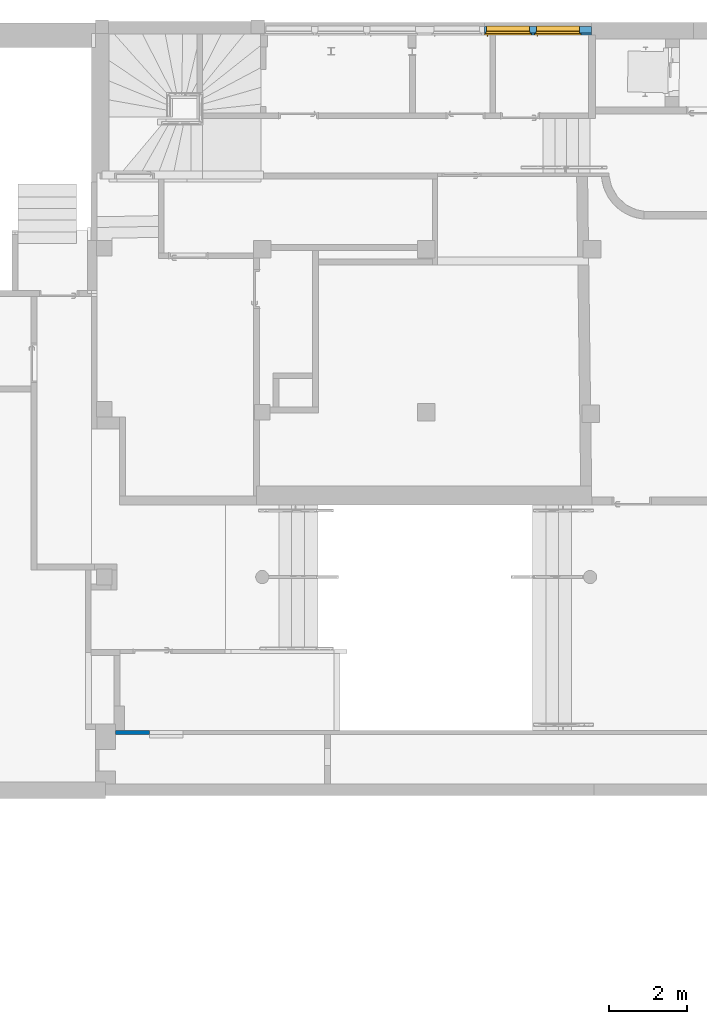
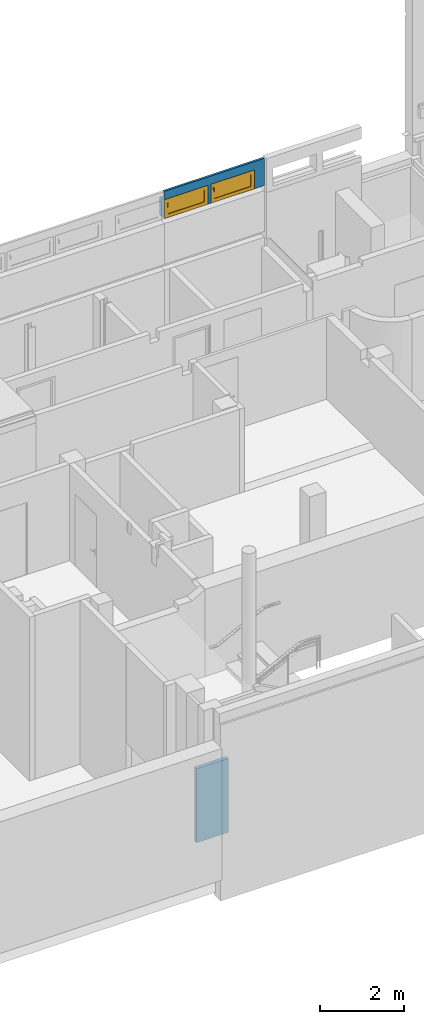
"""IFC4 building model written with IfcOpenShell, lengths in metres."""

from ifc_helpers import new_model, entity, si_unit, converted_unit, derived_unit, direction, frame, origin, place, context, subcontext, project, spatial, polygons, source, transform, mapped, material, material_list, layer, layer_set, constituent, constituent_set, type_object, type_shapes, element, fill, save


model = new_model("IFC4")

# Units and contexts
model_context = context("Model", 3, precision=1e-05, world=origin(), true_north=direction((6.12303176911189e-17, 1.0)))
body_context = subcontext(model_context, "Body", "Model", "MODEL_VIEW")
ifc_project = project(units=[si_unit("LENGTHUNIT", "METRE"), si_unit("AREAUNIT", "SQUARE_METRE"), si_unit("VOLUMEUNIT", "CUBIC_METRE"), converted_unit("PLANEANGLEUNIT", "DEGREE", entity("IfcRatioMeasure", 0.0174532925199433), si_unit("PLANEANGLEUNIT", "RADIAN"), dimensions=[0, 0, 0, 0, 0, 0, 0]), si_unit("MASSUNIT", "GRAM", prefix="KILO"), derived_unit("MASSDENSITYUNIT", [(si_unit("MASSUNIT", "GRAM", prefix="KILO"), 1), (si_unit("LENGTHUNIT", "METRE"), -3)]), derived_unit("MOMENTOFINERTIAUNIT", [(si_unit("LENGTHUNIT", "METRE"), 4)]), si_unit("TIMEUNIT", "SECOND"), si_unit("FREQUENCYUNIT", "HERTZ"), si_unit("THERMODYNAMICTEMPERATUREUNIT", "DEGREE_CELSIUS"), derived_unit("THERMALTRANSMITTANCEUNIT", [(si_unit("MASSUNIT", "GRAM", prefix="KILO"), 1), (si_unit("THERMODYNAMICTEMPERATUREUNIT", "KELVIN"), -1), (si_unit("TIMEUNIT", "SECOND"), -3)]), derived_unit("VOLUMETRICFLOWRATEUNIT", [(si_unit("LENGTHUNIT", "METRE"), 3), (si_unit("TIMEUNIT", "SECOND"), -1)]), si_unit("ELECTRICCURRENTUNIT", "AMPERE"), si_unit("ELECTRICVOLTAGEUNIT", "VOLT"), si_unit("POWERUNIT", "WATT"), si_unit("FORCEUNIT", "NEWTON", prefix="KILO"), si_unit("ILLUMINANCEUNIT", "LUX"), si_unit("LUMINOUSFLUXUNIT", "LUMEN"), si_unit("LUMINOUSINTENSITYUNIT", "CANDELA"), derived_unit("USERDEFINED", [(si_unit("MASSUNIT", "GRAM", prefix="KILO"), -1), (si_unit("LENGTHUNIT", "METRE"), -2), (si_unit("TIMEUNIT", "SECOND"), 3), (si_unit("LUMINOUSFLUXUNIT", "LUMEN"), 1)]), derived_unit("LINEARVELOCITYUNIT", [(si_unit("LENGTHUNIT", "METRE"), 1), (si_unit("TIMEUNIT", "SECOND"), -1)]), si_unit("PRESSUREUNIT", "PASCAL"), derived_unit("USERDEFINED", [(si_unit("LENGTHUNIT", "METRE"), -2), (si_unit("MASSUNIT", "GRAM", prefix="KILO"), 1), (si_unit("TIMEUNIT", "SECOND"), -2)]), derived_unit("LINEARFORCEUNIT", [(si_unit("MASSUNIT", "GRAM", prefix="KILO"), 1), (si_unit("LENGTHUNIT", "METRE"), 1), (si_unit("TIMEUNIT", "SECOND"), -2), (si_unit("LENGTHUNIT", "METRE"), -1)]), derived_unit("PLANARFORCEUNIT", [(si_unit("MASSUNIT", "GRAM", prefix="KILO"), 1), (si_unit("LENGTHUNIT", "METRE"), 1), (si_unit("TIMEUNIT", "SECOND"), -2), (si_unit("LENGTHUNIT", "METRE"), -2)])], contexts=[model_context])

# Site, building, storey
site_placement = place(None, origin())
site = spatial("IfcSite", under=ifc_project, at=site_placement, Name="Default", CompositionType="ELEMENT")
building_placement = place(site_placement, origin())
building = spatial("IfcBuilding", under=site, at=building_placement, Name="HOTEL CONSULAIRE BOULOGNE SUR MER", CompositionType="ELEMENT")
storey_1_placement = place(building_placement, frame((0.0, 0.0, -5.02343668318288)))
storey_1 = spatial("IfcBuildingStorey", under=building, at=storey_1_placement, Name="SS3", CompositionType="ELEMENT", Elevation=-5.02343668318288)

# Wall
ifc_material_1 = material(Name="Mur par défaut", Category="Divers")
ifc_layer_1 = layer(ifc_material_1, 0.1, Name="Mur par défaut", Category="Divers")
ifc_layer_set_1 = layer_set([ifc_layer_1], Name="Mur de base:Générique - Int. 100 mm")
wall_type_1 = type_object("IfcWallType", Name="Mur de base:Générique - Int. 100 mm", PredefinedType="NOTDEFINED", material=ifc_layer_set_1)
wall_1_placement = place(storey_1_placement, frame((-4.99468938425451, -27.996273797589, 0.0)))
element("IfcWall", 1, at=wall_1_placement, inside=storey_1, type_object=wall_type_1, material=ifc_layer_set_1, Name="Mur de base:Générique - Int. 100 mm", ObjectType="Mur de base:Générique - Int. 100 mm", PredefinedType="NOTDEFINED", context=body_context, shape_type="Tessellation", body=[
    polygons([(2.59627302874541e-16, -0.0499999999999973, 0.0), (0.880410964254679, -0.0499999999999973, 0.0), (0.880410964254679, -0.0499999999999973, 0.517), (0.880410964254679, -0.0499999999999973, 2.14999999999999), (2.59627302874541e-16, -0.0499999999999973, 2.14999999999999), (0.880410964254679, 0.0500000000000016, 0.0), (0.238410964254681, 0.0500000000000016, 0.0), (-6.17615550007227e-17, 0.0500000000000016, 0.0), (-6.17615550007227e-17, 0.0500000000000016, 2.14999999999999), (0.238410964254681, 0.0500000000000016, 2.14999999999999), (0.880410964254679, 0.0500000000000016, 2.14999999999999), (0.880410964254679, 0.0500000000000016, 0.517)], [[[5, 1, 2, 3, 4]], [[12, 6, 7, 8, 9, 10, 11]], [[2, 1, 8, 7, 6]], [[3, 2, 6, 12, 11, 4]], [[9, 8, 1, 5]], [[10, 9, 5, 4, 11]]], closed=True),
])

# Wall, openings
ifc_layer_2 = layer(ifc_material_1, 0.22, Name="Mur par défaut", Category="Divers")
ifc_layer_set_2 = layer_set([ifc_layer_2], Name="Mur de base:Générique - Ext. 220 mm")
wall_type_2 = type_object("IfcWallType", Name="Mur de base:Générique - Ext. 220 mm", PredefinedType="NOTDEFINED", material=ifc_layer_set_2)
wall_2_placement = place(storey_1_placement, frame((4.4625764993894, -10.02432416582, 3.9387775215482)))
wall_2 = element("IfcWall", 2, at=wall_2_placement, inside=storey_1, type_object=wall_type_2, material=ifc_layer_set_2, Name="Mur de base:Générique - Ext. 220 mm", ObjectType="Mur de base:Générique - Ext. 220 mm", PredefinedType="NOTDEFINED", context=body_context, shape_type="Tessellation", body=[
    polygons([(2.74640376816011, -0.109999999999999, 0.814659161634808), (6.06782421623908e-16, -0.109999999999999, 0.814659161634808), (6.06782421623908e-16, -0.109999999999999, 0.0231229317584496), (2.74640376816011, -0.109999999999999, 0.0231229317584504), (1.20395303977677, -0.109999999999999, 0.0244593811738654), (0.00395303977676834, -0.109999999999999, 0.0244593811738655), (0.00395303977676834, -0.109999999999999, 0.574459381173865), (1.20395303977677, -0.109999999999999, 0.574459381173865), (2.48095303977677, -0.109999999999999, 0.0244593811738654), (1.28095303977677, -0.109999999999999, 0.0244593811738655), (1.28095303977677, -0.109999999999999, 0.574459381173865), (2.48095303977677, -0.109999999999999, 0.574459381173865), (-2.64406918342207e-16, 0.110000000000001, 0.524659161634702), (2.74640376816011, 0.110000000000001, 0.524659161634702), (2.74640376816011, 0.110000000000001, 1.08286712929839e-15), (2.43095303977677, 0.110000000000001, 9.47508738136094e-16), (2.43095303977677, 0.110000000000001, 0.524459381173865), (1.33095303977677, 0.110000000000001, 0.524459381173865), (1.33095303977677, 0.110000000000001, 5.41433564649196e-16), (1.15395303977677, 0.110000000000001, 4.06075173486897e-16), (1.15395303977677, 0.110000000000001, 0.524459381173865), (0.0539530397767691, 0.110000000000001, 0.524459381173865), (0.0539530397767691, 0.110000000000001, 1.35358391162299e-16), (-2.64406918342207e-16, 0.110000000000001, 0.0), (2.74640376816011, -0.0503081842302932, 0.814659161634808), (2.74640376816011, -0.0503081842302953, 0.524659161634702), (3.70405723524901e-16, -0.0503081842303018, 0.814659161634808), (3.70405723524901e-16, -0.0503081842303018, 0.524659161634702), (2.44095303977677, -0.0503081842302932, 0.524659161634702), (2.44095303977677, -0.0503081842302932, 0.534459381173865), (1.32095303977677, -0.0503081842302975, 0.534459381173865), (1.32095303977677, -0.0503081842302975, 0.524659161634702), (1.16395303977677, -0.0503081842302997, 0.524659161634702), (1.16395303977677, -0.0503081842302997, 0.534459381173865), (0.0439530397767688, -0.0503081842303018, 0.534459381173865), (0.0439530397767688, -0.0503081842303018, 0.524659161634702), (0.0439530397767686, -0.00999999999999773, 0.524659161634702), (1.16395303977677, -0.00999999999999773, 0.524659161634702), (1.32095303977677, -0.00999999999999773, 0.524659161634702), (2.44095303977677, -0.00999999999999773, 0.524659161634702), (0.0539530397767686, -0.0300000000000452, 0.0147145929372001), (1.15395303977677, -0.0300000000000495, 0.0147145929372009), (1.33095303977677, -0.0300000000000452, 0.0147145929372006), (2.43095303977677, -0.0300000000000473, 0.0147145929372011), (0.0539530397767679, -0.00999999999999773, 0.524459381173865), (0.0539530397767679, -0.00999999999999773, 0.0244593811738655), (0.053953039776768, -0.0300000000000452, 0.0244593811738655), (1.15395303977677, -0.0300000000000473, 0.0244593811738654), (1.15395303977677, -0.00999999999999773, 0.0244593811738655), (1.15395303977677, -0.00999999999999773, 0.524459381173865), (0.0439530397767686, -0.00999999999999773, 0.0244593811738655), (0.0439530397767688, -0.0600000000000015, 0.0244593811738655), (0.00395303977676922, -0.0600000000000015, 0.0244593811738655), (1.20395303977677, -0.0600000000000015, 0.0244593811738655), (1.16395303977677, -0.0600000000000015, 0.0244593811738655), (1.16395303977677, -0.00999999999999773, 0.0244593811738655), (0.00395303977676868, -0.0600000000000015, 0.574459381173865), (0.0439530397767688, -0.0600000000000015, 0.534459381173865), (1.16395303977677, -0.0600000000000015, 0.534459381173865), (1.20395303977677, -0.0600000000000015, 0.574459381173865), (1.33095303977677, -0.00999999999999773, 0.524459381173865), (1.33095303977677, -0.00999999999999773, 0.0244593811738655), (1.33095303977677, -0.0300000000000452, 0.0244593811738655), (2.43095303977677, -0.0300000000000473, 0.0244593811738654), (2.43095303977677, -0.00999999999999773, 0.0244593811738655), (2.43095303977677, -0.00999999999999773, 0.524459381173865), (1.32095303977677, -0.00999999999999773, 0.0244593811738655), (1.32095303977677, -0.0600000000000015, 0.0244593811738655), (1.28095303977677, -0.0600000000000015, 0.0244593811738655), (2.48095303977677, -0.0600000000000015, 0.0244593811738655), (2.44095303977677, -0.0600000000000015, 0.0244593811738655), (2.44095303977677, -0.00999999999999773, 0.0244593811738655), (1.28095303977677, -0.0600000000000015, 0.574459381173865), (1.32095303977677, -0.0600000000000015, 0.534459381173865), (2.44095303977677, -0.0600000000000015, 0.534459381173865), (2.48095303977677, -0.0600000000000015, 0.574459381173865)], [[[3, 4, 1, 2], [6, 7, 8, 5], [10, 11, 12, 9]], [[58, 59, 55, 54, 60, 57, 53, 52]], [[45, 50, 49, 56, 38, 37, 51, 46]], [[74, 75, 71, 70, 76, 73, 69, 68]], [[61, 66, 65, 72, 40, 39, 67, 62]], [[17, 18, 19, 20, 21, 22, 23, 24, 13, 14, 15, 16]], [[30, 31, 32, 33, 34, 35, 36, 28, 27, 25, 26, 29]], [[48, 42, 41, 47]], [[64, 44, 43, 63]], [[25, 1, 4, 15, 14, 26]], [[46, 47, 41, 23, 22, 45]], [[7, 6, 53, 57]], [[36, 35, 58, 52, 51, 37]], [[62, 63, 43, 19, 18, 61]], [[11, 10, 69, 73]], [[32, 31, 74, 68, 67, 39]], [[2, 1, 25, 27]], [[29, 26, 14, 13, 28, 36, 37, 38, 33, 32, 39, 40]], [[47, 46, 51, 52, 53, 6, 5, 54, 55, 56, 49, 48]], [[63, 62, 67, 68, 69, 10, 9, 70, 71, 72, 65, 64]], [[3, 2, 27, 28, 13, 24]], [[42, 48, 49, 50, 21, 20]], [[5, 8, 60, 54]], [[59, 34, 33, 38, 56, 55]], [[44, 64, 65, 66, 17, 16]], [[9, 12, 76, 70]], [[75, 30, 29, 40, 72, 71]], [[41, 42, 20, 19, 43, 44, 16, 15, 4, 3, 24, 23]], [[50, 45, 22, 21]], [[60, 8, 7, 57]], [[59, 58, 35, 34]], [[66, 61, 18, 17]], [[76, 12, 11, 73]], [[30, 75, 74, 31]]], closed=True),
])
opening_1_placement = place(wall_2_placement, frame((0.00395303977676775, -0.500000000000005, -0.0462458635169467)))
opening_1 = element("IfcOpeningElement", 3, at=opening_1_placement, cuts=wall_2, Name="Mur de base:Générique - Ext. 220 mm", ObjectType="Opening", PredefinedType="OPENING", context=body_context, shape_type="Tessellation", body=[
    polygons([(0.0499999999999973, 6.49720277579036e-15, 0.570705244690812), (0.0499999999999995, 0.390000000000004, 0.570705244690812), (0.0499999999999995, 0.390000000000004, 0.0707052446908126), (0.0499999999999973, 6.49720277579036e-15, 0.0707052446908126), (1.15, 1.0, 0.570705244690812), (1.15, 0.490000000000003, 0.570705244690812), (1.15, 0.490000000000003, 0.0707052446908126), (1.15, 0.469999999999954, 0.0707052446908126), (1.15, 0.469999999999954, 0.0557052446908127), (1.15, 1.0, 0.0), (1.15, 0.0, 0.570705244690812), (1.15, 0.39, 0.570705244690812), (0.05, 0.46999999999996, 0.0707052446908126), (0.05, 0.490000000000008, 0.0707052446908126), (0.05, 0.490000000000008, 0.570705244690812), (0.0500000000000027, 1.00000000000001, 0.570705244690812), (0.0500000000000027, 1.00000000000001, 0.0), (0.05, 0.46999999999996, 0.0557052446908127), (1.15, 0.0, 0.0707052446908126), (1.15, 0.39, 0.0707052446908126), (1.08286712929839e-15, 0.390000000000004, 0.0707052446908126), (1.08286712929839e-15, 0.440000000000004, 0.0707052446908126), (0.0400000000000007, 0.440000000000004, 0.0707052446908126), (0.0400000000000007, 0.490000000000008, 0.0707052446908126), (1.16, 0.490000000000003, 0.0707052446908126), (1.16, 0.44, 0.0707052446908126), (1.2, 0.44, 0.0707052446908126), (1.2, 0.39, 0.0707052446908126), (5.41433564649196e-16, 0.390000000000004, 0.620705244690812), (5.41433564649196e-16, 0.440000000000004, 0.620705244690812), (1.2, 0.44, 0.620705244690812), (1.16, 0.44, 0.580705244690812), (0.0400000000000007, 0.440000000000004, 0.580705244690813), (0.0400000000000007, 0.490000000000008, 0.580705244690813), (1.16, 0.490000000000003, 0.580705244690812), (1.2, 0.39, 0.620705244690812)], [[[2, 3, 4, 1]], [[16, 17, 18, 13, 14, 15]], [[22, 21, 29, 30]], [[24, 23, 33, 34]], [[7, 8, 9, 10, 5, 6]], [[11, 19, 20, 12]], [[31, 36, 28, 27]], [[35, 32, 26, 25]], [[2, 1, 11, 12]], [[16, 15, 6, 5]], [[30, 29, 36, 31]], [[34, 33, 32, 35]], [[24, 14, 13, 8, 7, 25, 26, 27, 28, 20, 19, 4, 3, 21, 22, 23]], [[1, 4, 19, 11]], [[13, 18, 9, 8]], [[20, 28, 36, 29, 21, 3, 2, 12]], [[17, 16, 5, 10]], [[23, 22, 30, 31, 27, 26, 32, 33]], [[14, 24, 34, 35, 25, 7, 6, 15]], [[18, 17, 10, 9]]], closed=True),
])
opening_2_placement = place(wall_2_placement, frame((1.28095303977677, -0.500000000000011, -0.0462458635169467)))
opening_2 = element("IfcOpeningElement", 4, at=opening_2_placement, cuts=wall_2, Name="Mur de base:Générique - Ext. 220 mm", ObjectType="Opening", PredefinedType="OPENING", context=body_context, shape_type="Tessellation", body=[
    polygons([(1.15, 0.0, 0.570705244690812), (1.15, 0.39, 0.570705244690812), (0.0499999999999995, 0.390000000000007, 0.570705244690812), (0.0499999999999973, 6.49720277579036e-15, 0.570705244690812), (0.0499999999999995, 0.390000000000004, 0.0707052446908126), (0.0499999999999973, 6.49720277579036e-15, 0.0707052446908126), (1.15, 1.0, 0.570705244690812), (1.15, 0.490000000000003, 0.570705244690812), (1.15, 0.490000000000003, 0.0707052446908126), (1.15, 0.469999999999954, 0.0707052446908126), (1.15, 0.469999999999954, 0.0557052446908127), (1.15, 1.0, 0.0), (0.0499999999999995, 0.46999999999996, 0.0707052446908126), (0.0500000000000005, 0.490000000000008, 0.0707052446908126), (0.0500000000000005, 0.490000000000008, 0.570705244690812), (0.0500000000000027, 1.00000000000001, 0.570705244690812), (0.0500000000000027, 1.00000000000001, 0.0), (0.0499999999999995, 0.46999999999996, 0.0557052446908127), (1.15, 0.0, 0.0707052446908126), (1.15, 0.39, 0.0707052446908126), (1.08286712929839e-15, 0.390000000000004, 0.0707052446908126), (1.08286712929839e-15, 0.440000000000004, 0.0707052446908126), (0.0400000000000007, 0.440000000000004, 0.0707052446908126), (0.0400000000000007, 0.490000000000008, 0.0707052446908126), (1.16, 0.490000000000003, 0.0707052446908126), (1.16, 0.44, 0.0707052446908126), (1.2, 0.44, 0.0707052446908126), (1.2, 0.39, 0.0707052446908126), (1.08286712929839e-15, 0.390000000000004, 0.620705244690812), (1.08286712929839e-15, 0.440000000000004, 0.620705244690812), (1.2, 0.44, 0.620705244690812), (1.16, 0.44, 0.580705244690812), (0.0400000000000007, 0.440000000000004, 0.580705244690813), (0.0400000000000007, 0.490000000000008, 0.580705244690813), (1.16, 0.490000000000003, 0.580705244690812), (1.2, 0.39, 0.620705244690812)], [[[3, 4, 1, 2]], [[16, 15, 8, 7]], [[30, 29, 36, 31]], [[34, 33, 32, 35]], [[3, 5, 6, 4]], [[16, 17, 18, 13, 14, 15]], [[22, 21, 29, 30]], [[24, 23, 33, 34]], [[9, 10, 11, 12, 7, 8]], [[1, 19, 20, 2]], [[31, 36, 28, 27]], [[35, 32, 26, 25]], [[24, 14, 13, 10, 9, 25, 26, 27, 28, 20, 19, 6, 5, 21, 22, 23]], [[4, 6, 19, 1]], [[13, 18, 11, 10]], [[20, 28, 36, 29, 21, 5, 3, 2]], [[17, 16, 7, 12]], [[23, 22, 30, 31, 27, 26, 32, 33]], [[14, 24, 34, 35, 25, 9, 8, 15]], [[18, 17, 12, 11]]], closed=True),
])

# Storey
storey_2_placement = place(building_placement, frame((0.0, 0.0, -1.40419978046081)))
storey_2 = spatial("IfcBuildingStorey", under=building, at=storey_2_placement, Name="Demi-niveau", CompositionType="ELEMENT", Elevation=-1.40419978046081)

# Window
ifc_material_2 = material(Name="PVC - Blanc", Category="Plastique")
ifc_constituent_1 = constituent(ifc_material_2, Name="PVC - Blanc", Category="Matériaux")
ifc_material_3 = material(Name="Fenêtre - Appui", Category="Métal")
ifc_constituent_2 = constituent(ifc_material_3, Name="Fenêtre - Appui", Category="Matériaux")
ifc_constituent_set_1 = constituent_set(constituents=[ifc_constituent_1, ifc_constituent_2], Name="MaterialConstituentSet")
ifc_material_list = material_list([ifc_material_2, ifc_material_2, ifc_material_3, ifc_material_2, ifc_material_2])
window_type = type_object("IfcWindowType", Name="1 Vantail - Droit:1.10x0.5 2", PartitioningType="NOTDEFINED", PredefinedType="WINDOW", material=ifc_material_list)
shared_shape = source(origin(), body_context, "Body", "Tessellation", [
    polygons([(0.0806460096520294, -0.61600000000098, 0.492739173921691), (0.0820339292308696, -0.61600000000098, 0.491351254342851), (0.0820339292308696, -0.61600000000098, 0.480037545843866), (0.0806676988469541, -0.61600000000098, 0.478671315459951), (0.0693323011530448, -0.61600000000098, 0.478671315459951), (0.0679660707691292, -0.61600000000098, 0.480037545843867), (0.0679660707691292, -0.61600000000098, 0.491351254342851), (0.0693539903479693, -0.61600000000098, 0.492739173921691), (0.0806460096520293, -0.628913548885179, 0.492739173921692), (0.0820339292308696, -0.62833865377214, 0.491351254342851), (0.0820339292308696, -0.64164600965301, 0.478043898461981), (0.0820339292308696, -0.64164600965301, 0.390705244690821), (0.0820339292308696, -0.630332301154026, 0.390705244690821), (0.0820339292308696, -0.630332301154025, 0.473357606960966), (0.0820339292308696, -0.623652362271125, 0.480037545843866), (0.0806676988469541, -0.623086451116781, 0.478671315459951), (0.0693323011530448, -0.623086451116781, 0.478671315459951), (0.0679660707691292, -0.623652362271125, 0.480037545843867), (0.0679660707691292, -0.630332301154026, 0.473357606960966), (0.0679660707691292, -0.630332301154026, 0.390705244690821), (0.0679660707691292, -0.64164600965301, 0.390705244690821), (0.0679660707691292, -0.64164600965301, 0.478043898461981), (0.0679660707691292, -0.62833865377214, 0.491351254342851), (0.0693539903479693, -0.628913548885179, 0.492739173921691), (0.0806460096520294, -0.64303392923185, 0.47861879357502), (0.0806676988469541, -0.62896607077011, 0.472791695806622), (0.0693323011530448, -0.62896607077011, 0.472791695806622), (0.0693539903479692, -0.64303392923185, 0.47861879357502), (0.0806460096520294, -0.643033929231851, 0.390705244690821), (0.0693539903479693, -0.643033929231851, 0.390705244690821), (0.0693323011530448, -0.62896607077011, 0.390705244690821), (0.0806676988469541, -0.62896607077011, 0.390705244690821)], [[[5, 6, 7, 8, 1, 2, 3, 4]], [[27, 26, 32, 31]], [[2, 1, 9, 10]], [[2, 10, 11, 12, 13, 14, 15, 3]], [[4, 3, 15, 16]], [[5, 4, 16, 17]], [[32, 13, 12, 29, 30, 21, 20, 31]], [[6, 5, 17, 18]], [[6, 18, 19, 20, 21, 22, 23, 7]], [[8, 7, 23, 24]], [[1, 8, 24, 9]], [[10, 9, 25, 11]], [[16, 15, 14, 26]], [[17, 16, 26, 27]], [[18, 17, 27, 19]], [[24, 23, 22, 28]], [[9, 24, 28, 25]], [[11, 25, 29, 12]], [[26, 14, 13, 32]], [[19, 27, 31, 20]], [[28, 22, 21, 30]], [[25, 28, 30, 29]]], closed=True),
    polygons([(0.0820000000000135, -0.616000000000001, 0.510705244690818), (0.0679999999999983, -0.616000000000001, 0.510705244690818), (0.0629999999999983, -0.616000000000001, 0.505705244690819), (0.0629999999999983, -0.616000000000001, 0.435705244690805), (0.0679999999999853, -0.616000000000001, 0.430705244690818), (0.0820000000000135, -0.616000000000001, 0.430705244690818), (0.0869999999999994, -0.616000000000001, 0.435705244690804), (0.0869999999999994, -0.616000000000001, 0.505705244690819), (0.0820000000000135, -0.610000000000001, 0.510705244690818), (0.0869999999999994, -0.610000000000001, 0.505705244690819), (0.0869999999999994, -0.610000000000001, 0.435705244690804), (0.0820000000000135, -0.610000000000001, 0.430705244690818), (0.0679999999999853, -0.610000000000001, 0.430705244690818), (0.0629999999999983, -0.610000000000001, 0.435705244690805), (0.0629999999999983, -0.610000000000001, 0.505705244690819), (0.0679999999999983, -0.610000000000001, 0.510705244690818)], [[[4, 5, 6, 7, 8, 1, 2, 3]], [[10, 11, 12, 13, 14, 15, 16, 9]], [[2, 1, 9, 16]], [[3, 2, 16, 15]], [[4, 3, 15, 14]], [[5, 4, 14, 13]], [[6, 5, 13, 12]], [[7, 6, 12, 11]], [[8, 7, 11, 10]], [[1, 8, 10, 9]]], closed=True),
    polygons([(1.15, -0.374999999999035, 0.0446692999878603), (1.15, -0.524999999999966, 0.06043493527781), (1.15, -0.524999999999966, 0.0707052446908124), (1.15, -0.529999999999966, 0.0707052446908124), (1.15, -0.529999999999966, 0.0557052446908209), (1.15, -0.379999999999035, 0.0399396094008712), (1.15, -0.379999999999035, 0.029639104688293), (1.15, -0.374999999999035, 0.0291135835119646), (0.0499999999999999, -0.374999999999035, 0.0446692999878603), (0.0499999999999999, -0.374999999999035, 0.0291135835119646), (0.0499999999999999, -0.379999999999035, 0.029639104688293), (0.0499999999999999, -0.379999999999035, 0.0399396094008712), (0.0499999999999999, -0.529999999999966, 0.0557052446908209), (0.0499999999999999, -0.529999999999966, 0.0707052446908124), (0.0499999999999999, -0.524999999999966, 0.0707052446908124), (0.0499999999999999, -0.524999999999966, 0.06043493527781)], [[[1, 2, 3, 4, 5, 6, 7, 8]], [[14, 15, 16, 9, 10, 11, 12, 13]], [[2, 1, 9, 16]], [[3, 2, 16, 15]], [[1, 8, 10, 9]], [[4, 3, 15, 14]], [[5, 4, 14, 13]], [[7, 6, 12, 11]], [[6, 5, 13, 12]], [[8, 7, 11, 10]]], closed=True),
    polygons([(0.0500000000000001, -0.374999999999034, 0.0446692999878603), (0.0499999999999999, -0.524999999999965, 0.06043493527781), (0.0499999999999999, -0.524999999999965, 0.0654624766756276), (0.0500000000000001, -0.378581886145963, 0.0500733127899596), (0.0500000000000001, -0.376027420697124, 0.0487717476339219), (0.0500000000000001, -0.374999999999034, 0.0460952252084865), (0.0550000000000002, -0.374999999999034, 0.0446692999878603), (0.0550000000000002, -0.374999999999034, 0.0460952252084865), (0.0550000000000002, -0.376027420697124, 0.0487717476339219), (0.0550000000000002, -0.378581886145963, 0.0500733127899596), (0.0549999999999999, -0.524999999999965, 0.0654624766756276), (0.0549999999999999, -0.524999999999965, 0.06043493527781)], [[[6, 1, 2, 3, 4, 5]], [[11, 12, 7, 8, 9, 10]], [[2, 1, 7, 12]], [[3, 2, 12, 11]], [[4, 3, 11, 10]], [[4, 10, 9, 5]], [[9, 8, 6, 5]], [[1, 6, 8, 7]]], closed=True),
    polygons([(1.145, -0.374999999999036, 0.0446692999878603), (1.145, -0.524999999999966, 0.06043493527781), (1.145, -0.524999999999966, 0.0654624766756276), (1.145, -0.378581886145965, 0.0500733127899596), (1.145, -0.376027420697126, 0.0487717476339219), (1.145, -0.374999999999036, 0.0460952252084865), (1.15, -0.374999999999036, 0.0446692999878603), (1.15, -0.374999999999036, 0.0460952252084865), (1.15, -0.376027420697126, 0.0487717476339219), (1.15, -0.378581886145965, 0.0500733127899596), (1.15, -0.524999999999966, 0.0654624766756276), (1.15, -0.524999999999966, 0.06043493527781)], [[[6, 1, 2, 3, 4, 5]], [[11, 12, 7, 8, 9, 10]], [[2, 1, 7, 12]], [[3, 2, 12, 11]], [[4, 3, 11, 10]], [[4, 10, 9, 5]], [[9, 8, 6, 5]], [[1, 6, 8, 7]]], closed=True),
    polygons([(0.0999999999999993, -0.584000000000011, 0.170705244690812), (0.0999999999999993, -0.584000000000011, 0.520705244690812), (1.1, -0.584000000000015, 0.520705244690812), (1.1, -0.584000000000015, 0.170705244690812), (0.0999999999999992, -0.596000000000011, 0.170705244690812), (1.1, -0.596000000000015, 0.170705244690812), (1.1, -0.596000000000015, 0.520705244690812), (0.0999999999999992, -0.596000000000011, 0.520705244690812)], [[[4, 1, 2, 3]], [[7, 8, 5, 6]], [[2, 1, 5, 8]], [[3, 2, 8, 7]], [[4, 3, 7, 6]], [[1, 4, 6, 5]]], closed=True),
    polygons([(0.0999999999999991, -0.570000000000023, 0.170705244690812), (0.0999999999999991, -0.610000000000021, 0.170705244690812), (1.1, -0.610000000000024, 0.170705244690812), (1.1, -0.570000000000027, 0.170705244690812), (0.0499999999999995, -0.61000000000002, 0.120705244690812), (0.0499999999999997, -0.570000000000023, 0.120705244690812), (1.15, -0.570000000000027, 0.120705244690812), (1.15, -0.610000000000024, 0.120705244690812), (1.1, -0.610000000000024, 0.520705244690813), (1.1, -0.570000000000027, 0.520705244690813), (1.15, -0.570000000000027, 0.570705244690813), (1.15, -0.610000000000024, 0.570705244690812), (0.0999999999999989, -0.610000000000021, 0.520705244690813), (0.099999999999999, -0.570000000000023, 0.520705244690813), (0.0499999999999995, -0.570000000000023, 0.570705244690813), (0.0499999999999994, -0.61000000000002, 0.570705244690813)], [[[1, 2, 3, 4]], [[12, 11, 15, 16]], [[5, 6, 7, 8]], [[10, 9, 13, 14]], [[4, 3, 9, 10]], [[16, 15, 6, 5]], [[8, 7, 11, 12]], [[14, 13, 2, 1]], [[11, 7, 6, 15], [14, 1, 4, 10]], [[16, 5, 8, 12], [9, 3, 2, 13]]], closed=True),
    polygons([(6.76791955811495e-17, -0.610000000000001, 0.0707052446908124), (6.76791955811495e-17, -0.560000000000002, 0.0707052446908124), (0.0499999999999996, -0.560000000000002, 0.0707052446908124), (0.0499999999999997, -0.510000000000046, 0.0707052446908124), (1.15, -0.510000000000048, 0.0707052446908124), (1.15, -0.560000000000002, 0.0707052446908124), (1.2, -0.560000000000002, 0.0707052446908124), (1.2, -0.610000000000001, 0.0707052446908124), (2.70716782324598e-16, -0.560000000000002, 0.620705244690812), (1.2, -0.560000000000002, 0.620705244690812), (1.15, -0.560000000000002, 0.110081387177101), (0.0499999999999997, -0.560000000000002, 0.110081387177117), (0.0649999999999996, -0.560000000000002, 0.555705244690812), (0.0649999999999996, -0.560000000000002, 0.135705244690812), (1.135, -0.560000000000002, 0.135705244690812), (1.135, -0.560000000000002, 0.555705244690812), (0.0649999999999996, -0.570000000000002, 0.555705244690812), (0.0649999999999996, -0.570000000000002, 0.135705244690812), (1.15, -0.570000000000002, 0.570705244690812), (0.0499999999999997, -0.570000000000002, 0.570705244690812), (0.0499999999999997, -0.570000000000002, 0.120705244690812), (1.15, -0.570000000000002, 0.120705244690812), (1.135, -0.570000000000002, 0.555705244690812), (1.135, -0.570000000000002, 0.135705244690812), (0.0499999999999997, -0.610000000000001, 0.570705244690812), (0.0499999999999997, -0.610000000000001, 0.120705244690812), (1.2, -0.610000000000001, 0.620705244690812), (0.0, -0.610000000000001, 0.620705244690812), (1.15, -0.610000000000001, 0.570705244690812), (1.15, -0.610000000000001, 0.120705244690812), (0.0499999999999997, -0.500000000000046, 0.0940044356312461), (0.0499999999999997, -0.500000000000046, 0.0657052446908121), (0.0499999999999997, -0.510000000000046, 0.0657052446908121), (1.15, -0.510000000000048, 0.0657052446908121), (1.15, -0.500000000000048, 0.0657052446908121), (1.15, -0.500000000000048, 0.0940044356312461)], [[[5, 6, 7, 8, 1, 2, 3, 4]], [[17, 13, 16, 23]], [[25, 20, 19, 29]], [[33, 32, 35, 34]], [[2, 9, 10, 7, 6, 11, 12, 3], [14, 15, 16, 13]], [[32, 31, 36, 35]], [[18, 14, 13, 17]], [[26, 21, 20, 25]], [[10, 27, 8, 7]], [[11, 6, 5, 34, 35, 36]], [[22, 19, 20, 21], [18, 17, 23, 24]], [[8, 27, 28, 1], [26, 25, 29, 30]], [[4, 33, 34, 5]], [[2, 1, 28, 9]], [[23, 16, 15, 24]], [[29, 19, 22, 30]], [[31, 32, 33, 4, 3, 12]], [[9, 28, 27, 10]], [[21, 26, 30, 22]], [[14, 18, 24, 15]], [[31, 12, 11, 36]]], closed=True),
    polygons([(0.0499999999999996, -0.51, 0.0707052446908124), (0.0499999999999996, -0.560000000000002, 0.0707052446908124), (0.0399999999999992, -0.560000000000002, 0.0707052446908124), (0.0399999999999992, -0.51, 0.0707052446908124), (0.0499999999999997, -0.51, 0.570705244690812), (0.0499999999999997, -0.560000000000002, 0.570705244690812), (1.15, -0.560000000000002, 0.570705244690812), (1.15, -0.560000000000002, 0.0707052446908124), (1.16, -0.560000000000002, 0.0707052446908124), (1.16, -0.560000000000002, 0.580705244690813), (0.0399999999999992, -0.560000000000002, 0.580705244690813), (0.0399999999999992, -0.51, 0.580705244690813), (1.16, -0.51, 0.580705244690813), (1.16, -0.51, 0.0707052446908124), (1.15, -0.51, 0.0707052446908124), (1.15, -0.51, 0.570705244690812)], [[[2, 3, 4, 1]], [[6, 5, 16, 7]], [[15, 14, 9, 8]], [[2, 1, 5, 6]], [[13, 10, 9, 14]], [[8, 9, 10, 11, 3, 2, 6, 7]], [[4, 3, 11, 12]], [[7, 16, 15, 8]], [[1, 4, 12, 13, 14, 15, 16, 5]], [[12, 11, 10, 13]]], closed=True),
])
type_shapes(window_type, [shared_shape])
window_1_placement = place(opening_1_placement, frame((0.0, 1.0, 0.0)))
window_1 = element("IfcWindow", 5, at=window_1_placement, inside=storey_2, type_object=window_type, material=ifc_constituent_set_1, Name="1 Vantail - Droit:1.10x0.5 2", ObjectType="1 Vantail - Droit:1.10x0.5 2", OverallHeight=1.08, OverallWidth=1.2, PartitioningType="NOTDEFINED", PredefinedType="WINDOW", context=body_context, shape_type="MappedRepresentation", body=[
    mapped(shared_shape, transform((0.0, 0.0, 0.0), scale=1.0)),
])

fill(opening_1, window_1)

ifc_constituent_3 = constituent(ifc_material_2, Name="PVC - Blanc", Category="Matériaux")
ifc_constituent_4 = constituent(ifc_material_3, Name="Fenêtre - Appui", Category="Matériaux")
ifc_constituent_set_2 = constituent_set(constituents=[ifc_constituent_3, ifc_constituent_4], Name="MaterialConstituentSet")
window_2_placement = place(opening_2_placement, frame((0.0, 1.0, 0.0)))
window_2 = element("IfcWindow", 6, at=window_2_placement, inside=storey_2, type_object=window_type, material=ifc_constituent_set_2, Name="1 Vantail - Droit:1.10x0.5 2", ObjectType="1 Vantail - Droit:1.10x0.5 2", OverallHeight=1.08, OverallWidth=1.2, PartitioningType="NOTDEFINED", PredefinedType="WINDOW", context=body_context, shape_type="MappedRepresentation", body=[
    mapped(shared_shape, transform((0.0, 0.0, 0.0), scale=1.0)),
])

fill(opening_2, window_2)

save(model, "model.ifc")
